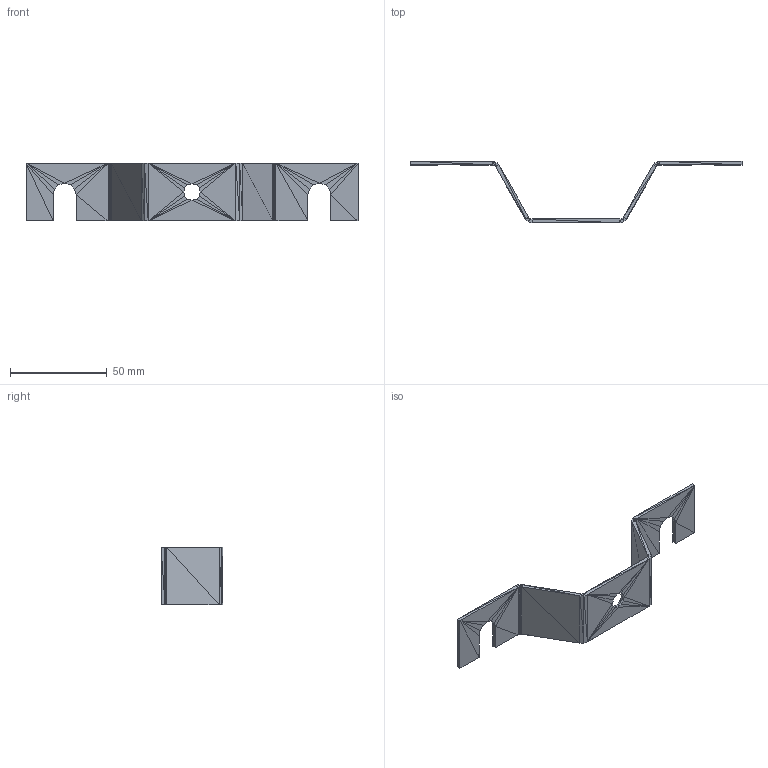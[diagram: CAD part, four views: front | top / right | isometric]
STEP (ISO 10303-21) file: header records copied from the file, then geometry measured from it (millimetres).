
FILE_DESCRIPTION((''),'2;1');
FILE_NAME('004811', '2025-07-23T10:50:19', (''), (''), 'ImageToStl.com STEP Converter','', '');
FILE_SCHEMA(('AUTOMOTIVE_DESIGN_CC2'));
Length unit declared in the file: metre
Products named in the file (1): product0
Bounding box: 172 x 32 x 30 mm (x, y, z)
Surface area: 12469.9 mm2 (no closed solid volume)
Topology: 0 solids, 252 shells, 252 faces, 756 edges, 146 vertices
Faces by surface type: plane 252
Entity records: 5864 total; most frequent: DIRECTION 1262, ORIENTED_EDGE 756, EDGE_CURVE 756, LINE 756, VECTOR 756, AXIS2_PLACEMENT_3D 253, FACE_SURFACE 252, PLANE 252
